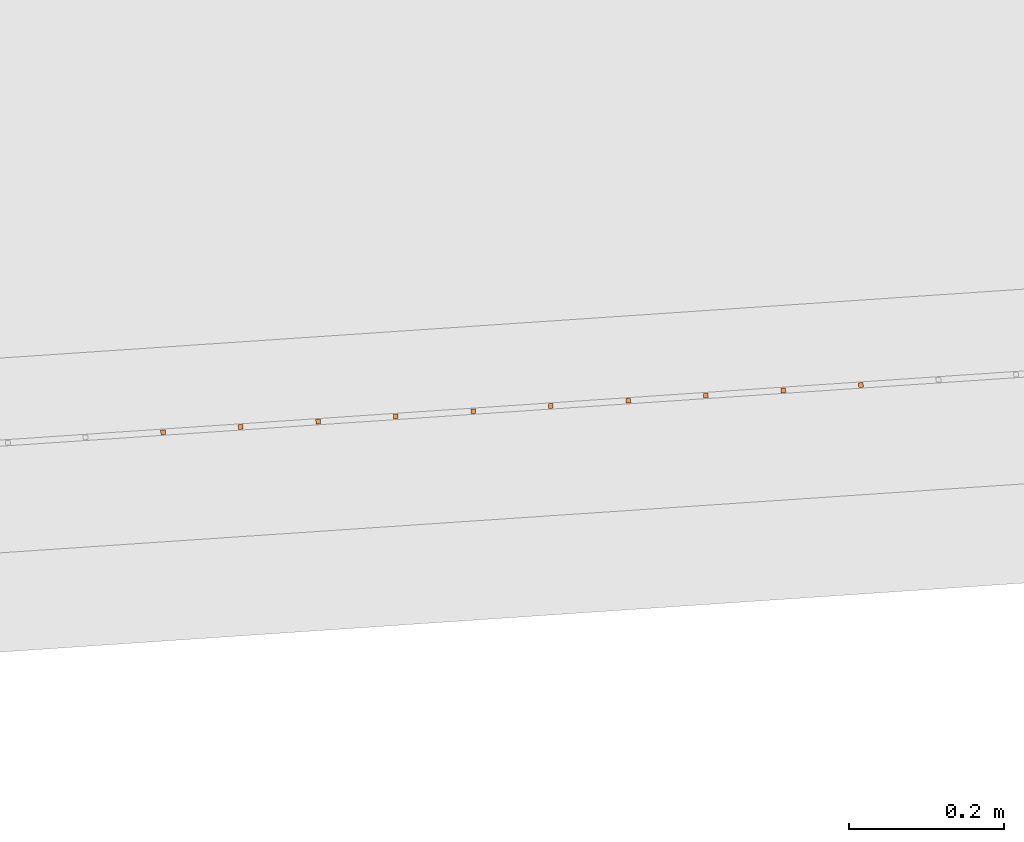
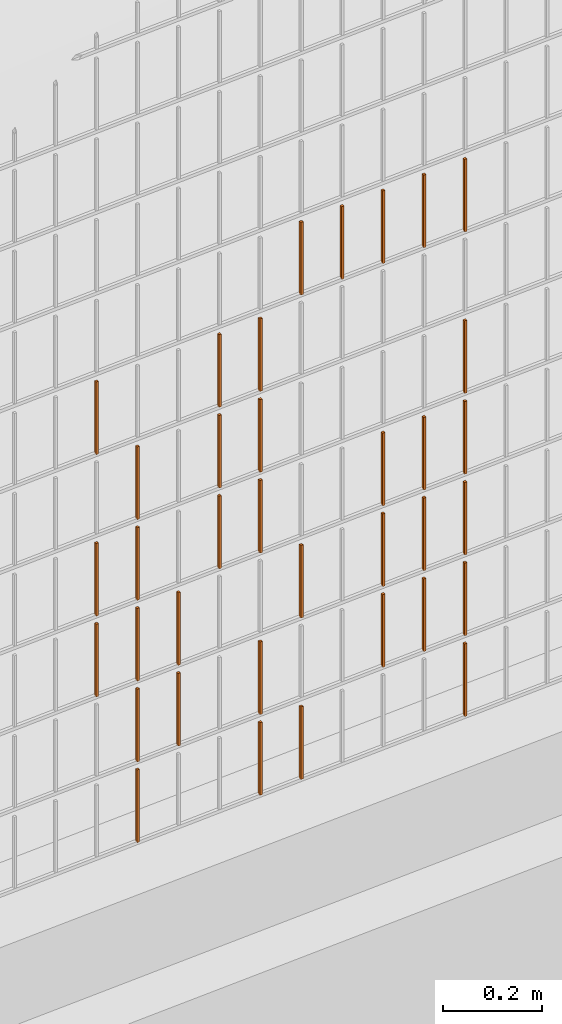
# One storey, part 267 of 1809: 36 proxies, 1 element without a shape of its own.
"""IFC2X3 building model written with IfcOpenShell, lengths in millimetres."""

import ifcopenshell
import ifcopenshell.guid

model = None  # the IFC model being written
_history = None  # IfcOwnerHistory: only IFC2X3 demands one
_inside = {}  # id of a spatial element -> (the spatial element, [elements in it])
_under = {}  # id of a project, library or spatial element -> (it, [spatial elements below it])
_declared = {}  # id of a project -> (the project, [libraries it declares])
_typed = {}  # id of a type object -> (the type object, [elements of that type])
_made_of = {}  # id of a material, layer set ... -> (it, [elements and type objects made of it])


def new_model(schema):
    """Start an empty IFC model of exactly this schema.

    Asked for "IFC4X3", IfcOpenShell would pick the latest addendum, in which some entities
    have other attributes; the version numbers below select the first issue.
    IFC2X3 requires an IfcOwnerHistory on every rooted entity: one is made here for all.
    """
    global model, _history
    if schema == "IFC4X3":
        model = ifcopenshell.file(schema_version=(4, 3, 0, 0))
    else:
        model = ifcopenshell.file(schema=schema)
    _inside.clear()
    _under.clear()
    _declared.clear()
    _typed.clear()
    _made_of.clear()
    _history = None
    if model.schema == "IFC2X3":
        org = make("IfcOrganization", Name="unknown")
        user = make(
            "IfcPersonAndOrganization",
            ThePerson=make("IfcPerson", FamilyName="unknown"),
            TheOrganization=org,
        )
        app = make(
            "IfcApplication",
            ApplicationDeveloper=org,
            Version="unknown",
            ApplicationFullName="unknown",
            ApplicationIdentifier="unknown",
        )
        _history = make(
            "IfcOwnerHistory",
            OwningUser=user,
            OwningApplication=app,
            ChangeAction="ADDED",
            CreationDate=0,
        )
    return model


def make(cls, **values):
    """One entity of the class cls with the attributes given. An attribute that is None is left unset."""
    return model.create_entity(
        cls, **{name: value for name, value in values.items() if value is not None}
    )


def entity(cls, *values):
    """Any entity or typed value of the class cls, its attributes in the order of the schema. None: left unset."""
    e = model.create_entity(cls)
    for i, value in enumerate(values):
        if value is not None:
            e[i] = value
    return e


def rooted(cls, **values):
    """An entity with a GlobalId (a new one), such as an element, a storey or a relation."""
    return make(cls, GlobalId=ifcopenshell.guid.new(), OwnerHistory=_history, **values)


def si_unit(unit_type, name, prefix=None):
    """IfcSIUnit, for example si_unit("LENGTHUNIT", "METRE", prefix="MILLI")."""
    return make("IfcSIUnit", UnitType=unit_type, Prefix=prefix, Name=name)


def converted_unit(unit_type, name, factor, base, dimensions=None, offset=None):
    """IfcConversionBasedUnit, such as the inch: factor (a typed value) times the base unit."""
    return make(
        "IfcConversionBasedUnit"
        if offset is None
        else "IfcConversionBasedUnitWithOffset",
        ConversionOffset=offset,
        Dimensions=None
        if dimensions is None
        else entity("IfcDimensionalExponents", *dimensions),
        UnitType=unit_type,
        Name=name,
        ConversionFactor=make(
            "IfcMeasureWithUnit", ValueComponent=factor, UnitComponent=base
        ),
    )


def derived_unit(unit_type, elements):
    """IfcDerivedUnit: a product of units, each with its exponent."""
    return make(
        "IfcDerivedUnit",
        Elements=[
            make("IfcDerivedUnitElement", Unit=unit, Exponent=power)
            for unit, power in elements
        ],
        UnitType=unit_type,
    )


def money_unit(currency):
    """IfcMonetaryUnit."""
    return make("IfcMonetaryUnit", Currency=currency)


def assignment(units):
    """IfcUnitAssignment: the units of a project."""
    return None if units is None else make("IfcUnitAssignment", Units=units)


def point(xyz):
    """IfcCartesianPoint."""
    return None if xyz is None else make("IfcCartesianPoint", Coordinates=xyz)


def direction(xyz):
    """IfcDirection."""
    return None if xyz is None else make("IfcDirection", DirectionRatios=xyz)


def frame(location, z_axis=None, x_axis=None):
    """IfcAxis2Placement3D, a coordinate frame: its origin and axes. An axis left out is left unset."""
    return make(
        "IfcAxis2Placement3D",
        Location=point(location),
        Axis=direction(z_axis),
        RefDirection=direction(x_axis),
    )


def origin_with_axes():
    """The frame at (0, 0, 0) with the z axis (0, 0, 1) and the x axis (1, 0, 0) written out."""
    return frame((0.0, 0.0, 0.0), z_axis=(0.0, 0.0, 1.0), x_axis=(1.0, 0.0, 0.0))


def place(relative_to, where):
    """IfcLocalPlacement: puts the frame where relative to a parent placement (None: the world)."""
    return make(
        "IfcLocalPlacement", PlacementRelTo=relative_to, RelativePlacement=where
    )


def context(
    kind, dimensions, precision=None, world=None, true_north=None, identifier=None
):
    """IfcGeometricRepresentationContext, for example the 3D "Model" context."""
    return make(
        "IfcGeometricRepresentationContext",
        ContextIdentifier=identifier,
        ContextType=kind,
        CoordinateSpaceDimension=dimensions,
        Precision=precision,
        WorldCoordinateSystem=world,
        TrueNorth=true_north,
    )


def subcontext(parent, identifier, kind, view, scale=None):
    """IfcGeometricRepresentationSubContext, for example "Body" below "Model"."""
    return make(
        "IfcGeometricRepresentationSubContext",
        ContextIdentifier=identifier,
        ContextType=kind,
        ParentContext=parent,
        TargetScale=scale,
        TargetView=view,
    )


def project(units=None, contexts=None):
    """IfcProject with its units and contexts."""
    return rooted(
        "IfcProject",
        Name="project",
        RepresentationContexts=contexts,
        UnitsInContext=assignment(units),
    )


def spatial(cls, under=None, at=None, **own):
    """A site, building, storey or space (cls), placed at a placement, below another one or the project."""
    s = rooted(cls, ObjectPlacement=at, **own)
    if under is not None:
        _under.setdefault(under.id(), (under, []))[1].append(s)
    return s


def faces_of(points, faces, orient=None, outer=None):
    """IfcFace entities. A face is a list of loops; a loop is a list of indices into points, from 0.

    orient and outer hold one flag for each loop. By default every Orientation is true, the
    first loop of a face is its IfcFaceOuterBound and the others are IfcFaceBound.
    """
    made = []
    for i, loops in enumerate(faces):
        bounds = []
        for j, loop in enumerate(loops):
            is_outer = j == 0 if outer is None else outer[i][j]
            bounds.append(
                make(
                    "IfcFaceOuterBound" if is_outer else "IfcFaceBound",
                    Bound=make("IfcPolyLoop", Polygon=[points[k] for k in loop]),
                    Orientation=True if orient is None else orient[i][j],
                )
            )
        made.append(make("IfcFace", Bounds=bounds))
    return made


def faceted_brep(points, faces, orient=None, outer=None, voids=None):
    """IfcFacetedBrep: a solid bounded by flat faces; with voids (closed shells), ...WithVoids."""
    shared = [point(p) for p in points]
    hull = make("IfcClosedShell", CfsFaces=faces_of(shared, faces, orient, outer))
    if voids is None:
        return make("IfcFacetedBrep", Outer=hull)
    return make(
        "IfcFacetedBrepWithVoids",
        Outer=hull,
        Voids=[
            make(cls, CfsFaces=faces_of(shared, fs, o, b)) for cls, fs, o, b in voids
        ],
    )


def shape(context_of_items, identifier, shape_type, items):
    """IfcShapeRepresentation: the items that make up one representation, for example the "Body"."""
    return make(
        "IfcShapeRepresentation",
        ContextOfItems=context_of_items,
        RepresentationIdentifier=identifier,
        RepresentationType=shape_type,
        Items=items,
    )


def source(mapping_origin, context_of_items, identifier, shape_type, items):
    """IfcRepresentationMap: a shape defined once, which mapped items show again and again."""
    return make(
        "IfcRepresentationMap",
        MappingOrigin=mapping_origin,
        MappedRepresentation=shape(context_of_items, identifier, shape_type, items),
    )


def transform(
    local_origin,
    x_axis=None,
    y_axis=None,
    z_axis=None,
    scale=None,
    scale2=None,
    scale3=None,
    uniform=True,
):
    """IfcCartesianTransformationOperator3D, or its non-uniform kind. x_axis, y_axis, z_axis: its Axis1, 2, 3."""
    if uniform:
        return make(
            "IfcCartesianTransformationOperator3D",
            Axis1=direction(x_axis),
            Axis2=direction(y_axis),
            LocalOrigin=point(local_origin),
            Scale=scale,
            Axis3=direction(z_axis),
        )
    return make(
        "IfcCartesianTransformationOperator3DnonUniform",
        Axis1=direction(x_axis),
        Axis2=direction(y_axis),
        LocalOrigin=point(local_origin),
        Scale=scale,
        Axis3=direction(z_axis),
        Scale2=scale2,
        Scale3=scale3,
    )


def mapped(mapping_source, mapping_target):
    """IfcMappedItem: shows the shape of a source again, moved by a transform."""
    return make(
        "IfcMappedItem", MappingSource=mapping_source, MappingTarget=mapping_target
    )


def material(Name=None, Category=None):
    """IfcMaterial."""
    return make("IfcMaterial", Name=Name, Category=Category)


def made_of(thing, what):
    """Note that an element or type object is made of a material, layer set ...; save() writes the relation."""
    if what is not None:
        _made_of.setdefault(what.id(), (what, []))[1].append(thing)
    return thing


def type_object(cls, material=None, **own):
    """A type object (cls), such as IfcWallType, which elements share."""
    return made_of(rooted(cls, **own), material)


def element(
    cls,
    number,
    at=None,
    inside=None,
    cuts=None,
    type_object=None,
    material=None,
    context=None,
    identifier="Body",
    shape_type=None,
    held_by="IfcProductDefinitionShape",
    body=None,
    shapes=None,
    **own,
):
    """One element of the class cls, such as IfcWall. Its Tag is "e" and its number.

    at: its placement. inside: the storey or other place that contains it. cuts: it is an
    opening in that element (IfcRelVoidsElement). A single representation is given by context,
    identifier, shape_type and body (its items); several are given by shapes. held_by: the class
    of the entity that holds the representations. save() writes the other relations.
    """
    e = rooted(cls, Tag="e%d" % number, ObjectPlacement=at, **own)
    if body is not None:
        shapes = [shape(context, identifier, shape_type, body)]
    if shapes is not None:
        e.Representation = make(held_by, Representations=shapes)
    if inside is not None:
        _inside.setdefault(inside.id(), (inside, []))[1].append(e)
    if cuts is not None:
        rooted(
            "IfcRelVoidsElement", RelatingBuildingElement=cuts, RelatedOpeningElement=e
        )
    if type_object is not None:
        _typed.setdefault(type_object.id(), (type_object, []))[1].append(e)
    return made_of(e, material)


def aggregate(whole, parts):
    """IfcRelAggregates: a whole, such as a stair, and the parts it consists of."""
    return rooted("IfcRelAggregates", RelatingObject=whole, RelatedObjects=parts)


def save(model, path):
    """Write the relations noted so far, then the file.

    IfcRelAggregates (storeys below a building ...), IfcRelContainedInSpatialStructure (elements
    in a storey), IfcRelDefinesByType, IfcRelAssociatesMaterial and IfcRelDeclares: one each for
    every whole, place, type object, material and project.
    """
    for whole, parts in _under.values():
        aggregate(whole, parts)
    for where, things in _inside.values():
        rooted(
            "IfcRelContainedInSpatialStructure",
            RelatedElements=things,
            RelatingStructure=where,
        )
    for kind, things in _typed.values():
        rooted("IfcRelDefinesByType", RelatedObjects=things, RelatingType=kind)
    for what, things in _made_of.values():
        rooted("IfcRelAssociatesMaterial", RelatedObjects=things, RelatingMaterial=what)
    for by, libraries in _declared.values():
        rooted("IfcRelDeclares", RelatingContext=by, RelatedDefinitions=libraries)
    model.write(path)


model = new_model("IFC2X3")

# Units and contexts
model_context = context("Model", 3, precision=0.01, world=origin_with_axes(), true_north=direction((0.0, 1.0)))
body_context = subcontext(model_context, "Body", "Model", "MODEL_VIEW")
ifc_project = project(units=[si_unit("LENGTHUNIT", "METRE", prefix="MILLI"), si_unit("AREAUNIT", "SQUARE_METRE"), si_unit("VOLUMEUNIT", "CUBIC_METRE"), converted_unit("PLANEANGLEUNIT", "DEGREE", entity("IfcPlaneAngleMeasure", 0.0174532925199), si_unit("PLANEANGLEUNIT", "RADIAN"), dimensions=[0, 0, 0, 0, 0, 0, 0]), si_unit("SOLIDANGLEUNIT", "STERADIAN"), money_unit("EUR"), converted_unit("TIMEUNIT", "Year", entity("IfcTimeMeasure", 31556926.0), si_unit("TIMEUNIT", "SECOND"), dimensions=[0, 0, 1, 0, 0, 0, 0]), si_unit("MASSUNIT", "GRAM", prefix="KILO"), si_unit("THERMODYNAMICTEMPERATUREUNIT", "DEGREE_CELSIUS"), si_unit("LUMINOUSINTENSITYUNIT", "LUMEN"), si_unit("ENERGYUNIT", "JOULE", prefix="MEGA"), derived_unit("THERMALCONDUCTANCEUNIT", [(si_unit("POWERUNIT", "WATT"), 1), (si_unit("LENGTHUNIT", "METRE"), -1), (si_unit("THERMODYNAMICTEMPERATUREUNIT", "KELVIN"), -1)]), derived_unit("SPECIFICHEATCAPACITYUNIT", [(si_unit("ENERGYUNIT", "JOULE"), 1), (si_unit("MASSUNIT", "GRAM", prefix="KILO"), -1), (si_unit("THERMODYNAMICTEMPERATUREUNIT", "KELVIN"), -1)]), derived_unit("MASSDENSITYUNIT", [(si_unit("MASSUNIT", "GRAM", prefix="KILO"), 1), (si_unit("VOLUMEUNIT", "CUBIC_METRE"), -1)])], contexts=[model_context])

# Site, building, storey
site_placement = place(None, origin_with_axes())
site = spatial("IfcSite", under=ifc_project, at=site_placement, Name="Politse- ja Piirivalveameti ning Päästeameti ühishoone", CompositionType="ELEMENT")
building_placement = place(site_placement, origin_with_axes())
building = spatial("IfcBuilding", under=site, at=building_placement, Name="Politse- ja Piirivalveameti ning Päästeameti ühishoone", CompositionType="ELEMENT")
storey_placement = place(building_placement, origin_with_axes())
storey = spatial("IfcBuildingStorey", under=building, at=storey_placement, Name="Esimene korrus", CompositionType="ELEMENT", Elevation=0.0)

# Proxies
building_element_proxy_type_1 = type_object("IfcBuildingElementProxyType", Name="Railing Type", PredefinedType="NOTDEFINED")
proxy_1_placement = place(storey_placement, frame((89252.001212, -29183.4766571, 203.661247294), z_axis=(0.0, 0.0, 1.0), x_axis=(1.0, 0.0, 0.0)))
proxy_1 = element("IfcBuildingElementProxy", 1, at=proxy_1_placement, inside=storey, type_object=building_element_proxy_type_1, Name="PIIRDEAED")
ifc_material = material(Name="ET-03_Raud")
building_element_proxy_type_2 = type_object("IfcBuildingElementProxyType", Name="IfcBuildingElementProxy", PredefinedType="NOTDEFINED")
shared_shape_1 = source(origin_with_axes(), body_context, "Body", "Brep", [
    faceted_brep([(3.0, 3.0, -0.000752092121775), (-3.0, 3.0, -0.000752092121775), (-3.0, 3.0, 179.99926046), (3.0, 3.0, 179.99926046), (3.0, -3.0, 0.000752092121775), (-3.0, -3.0, 0.000752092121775), (-3.0, -3.0, 180.000764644), (3.0, -3.0, 180.000764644)], [[[0, 1, 2, 3]], [[0, 4, 5, 1]], [[1, 5, 6, 2]], [[3, 2, 6, 7]], [[4, 0, 3, 7]], [[5, 4, 7, 6]]]),
])
proxy_2_placement = place(proxy_1_placement, frame((-55999.0856413, -21080.3016637, 13.1635722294), z_axis=(0.0, 0.0, 1.0), x_axis=(1.0, 0.0, 0.0)))
proxy_2 = element("IfcBuildingElementProxy", 2, at=proxy_2_placement, type_object=building_element_proxy_type_2, material=ifc_material, Name="BALUSTER - 001", context=body_context, shape_type="MappedRepresentation", body=[
    mapped(shared_shape_1, transform((0.0, 0.0, 0.0), x_axis=(-0.0673926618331, 0.997726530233, 0.0), y_axis=(-0.997726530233, -0.0673926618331, 0.0), z_axis=(0.0, 0.0, 1.0))),
])
shared_shape_2 = source(origin_with_axes(), body_context, "Body", "Brep", [
    faceted_brep([(3.0, 3.0, -0.000752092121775), (-3.0, 3.0, -0.000752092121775), (-3.0, 3.0, 179.99926046), (3.0, 3.0, 179.99926046), (3.0, -3.0, 0.000752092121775), (-3.0, -3.0, 0.000752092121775), (-3.0, -3.0, 180.000764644), (3.0, -3.0, 180.000764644)], [[[0, 1, 2, 3]], [[0, 4, 5, 1]], [[1, 5, 6, 2]], [[3, 2, 6, 7]], [[4, 0, 3, 7]], [[5, 4, 7, 6]]]),
])
proxy_3_placement = place(proxy_1_placement, frame((-55999.0856413, -21080.3016637, 413.163572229), z_axis=(0.0, 0.0, 1.0), x_axis=(1.0, 0.0, 0.0)))
proxy_3 = element("IfcBuildingElementProxy", 3, at=proxy_3_placement, type_object=building_element_proxy_type_2, material=ifc_material, Name="BALUSTER - 001", context=body_context, shape_type="MappedRepresentation", body=[
    mapped(shared_shape_2, transform((0.0, 0.0, 0.0), x_axis=(-0.0673926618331, 0.997726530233, 0.0), y_axis=(-0.997726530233, -0.0673926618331, 0.0), z_axis=(0.0, 0.0, 1.0))),
])
proxy_4_placement = place(proxy_1_placement, frame((-55999.0856413, -21080.3016637, 613.163572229), z_axis=(0.0, 0.0, 1.0), x_axis=(1.0, 0.0, 0.0)))
proxy_4 = element("IfcBuildingElementProxy", 4, at=proxy_4_placement, type_object=building_element_proxy_type_2, material=ifc_material, Name="BALUSTER - 001", context=body_context, shape_type="MappedRepresentation", body=[
    mapped(shared_shape_2, transform((0.0, 0.0, 0.0), x_axis=(-0.0673926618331, 0.997726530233, 0.0), y_axis=(-0.997726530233, -0.0673926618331, 0.0), z_axis=(0.0, 0.0, 1.0))),
])
shared_shape_3 = source(origin_with_axes(), body_context, "Body", "Brep", [
    faceted_brep([(3.0, 3.0, -0.000752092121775), (-3.0, 3.0, -0.000752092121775), (-3.0, 3.0, 179.99926046), (3.0, 3.0, 179.99926046), (3.0, -3.0, 0.000752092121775), (-3.0, -3.0, 0.000752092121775), (-3.0, -3.0, 180.000764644), (3.0, -3.0, 180.000764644)], [[[0, 1, 2, 3]], [[0, 4, 5, 1]], [[1, 5, 6, 2]], [[3, 2, 6, 7]], [[4, 0, 3, 7]], [[5, 4, 7, 6]]]),
])
proxy_5_placement = place(proxy_1_placement, frame((-55999.0856413, -21080.3016637, 813.163572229), z_axis=(0.0, 0.0, 1.0), x_axis=(1.0, 0.0, 0.0)))
proxy_5 = element("IfcBuildingElementProxy", 5, at=proxy_5_placement, type_object=building_element_proxy_type_2, material=ifc_material, Name="BALUSTER - 001", context=body_context, shape_type="MappedRepresentation", body=[
    mapped(shared_shape_3, transform((0.0, 0.0, 0.0), x_axis=(-0.0673926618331, 0.997726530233, 0.0), y_axis=(-0.997726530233, -0.0673926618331, 0.0), z_axis=(0.0, 0.0, 1.0))),
])
shared_shape_4 = source(origin_with_axes(), body_context, "Body", "Brep", [
    faceted_brep([(3.0, 3.0, -0.000752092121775), (-3.0, 3.0, -0.000752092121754), (-3.0, 3.0, 179.99926046), (3.0, 3.0, 179.99926046), (3.0, -3.0, 0.000752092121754), (-3.0, -3.0, 0.000752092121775), (-3.0, -3.0, 180.000764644), (3.0, -3.0, 180.000764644)], [[[0, 1, 2, 3]], [[0, 4, 5, 1]], [[1, 5, 6, 2]], [[3, 2, 6, 7]], [[4, 0, 3, 7]], [[5, 4, 7, 6]]]),
])
proxy_6_placement = place(proxy_1_placement, frame((-55200.9044171, -21026.3875343, 1213.36413013), z_axis=(0.0, 0.0, 1.0), x_axis=(1.0, 0.0, 0.0)))
proxy_6 = element("IfcBuildingElementProxy", 6, at=proxy_6_placement, type_object=building_element_proxy_type_2, material=ifc_material, Name="BALUSTER - 001", context=body_context, shape_type="MappedRepresentation", body=[
    mapped(shared_shape_4, transform((0.0, 0.0, 0.0), x_axis=(-0.0673926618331, 0.997726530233, 0.0), y_axis=(-0.997726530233, -0.0673926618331, 0.0), z_axis=(0.0, 0.0, 1.0))),
])
shared_shape_5 = source(origin_with_axes(), body_context, "Body", "Brep", [
    faceted_brep([(3.0, 3.0, -0.000752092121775), (-3.0, 3.0, -0.000752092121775), (-3.0, 3.0, 179.99926046), (3.0, 3.0, 179.99926046), (3.0, -3.0, 0.000752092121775), (-3.0, -3.0, 0.000752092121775), (-3.0, -3.0, 180.000764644), (3.0, -3.0, 180.000764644)], [[[0, 1, 2, 3]], [[0, 4, 5, 1]], [[1, 5, 6, 2]], [[3, 2, 6, 7]], [[4, 0, 3, 7]], [[5, 4, 7, 6]]]),
])
proxy_7_placement = place(proxy_1_placement, frame((-55999.0856413, -21080.3016637, 213.163572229), z_axis=(0.0, 0.0, 1.0), x_axis=(1.0, 0.0, 0.0)))
proxy_7 = element("IfcBuildingElementProxy", 7, at=proxy_7_placement, type_object=building_element_proxy_type_2, material=ifc_material, Name="BALUSTER - 001", context=body_context, shape_type="MappedRepresentation", body=[
    mapped(shared_shape_5, transform((0.0, 0.0, 0.0), x_axis=(-0.0673926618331, 0.997726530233, 0.0), y_axis=(-0.997726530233, -0.0673926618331, 0.0), z_axis=(0.0, 0.0, 1.0))),
])
shared_shape_6 = source(origin_with_axes(), body_context, "Body", "Brep", [
    faceted_brep([(3.0, 3.0, -0.000752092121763), (-3.0, 3.0, -0.000752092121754), (-3.00000000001, 2.99999999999, 179.99926046), (2.99999999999, 2.99999999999, 179.99926046), (3.0, -3.0, 0.000752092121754), (-3.0, -3.0, 0.000752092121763), (-3.00000000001, -3.00000000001, 180.000764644), (2.99999999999, -3.00000000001, 180.000764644)], [[[0, 1, 2, 3]], [[0, 4, 5, 1]], [[1, 5, 6, 2]], [[3, 2, 6, 7]], [[4, 0, 3, 7]], [[5, 4, 7, 6]]]),
])
proxy_8_placement = place(proxy_1_placement, frame((-55699.7676822, -21060.0838652, 1013.23878144), z_axis=(0.0, 0.0, 1.0), x_axis=(1.0, 0.0, 0.0)))
proxy_8 = element("IfcBuildingElementProxy", 8, at=proxy_8_placement, type_object=building_element_proxy_type_2, material=ifc_material, Name="BALUSTER - 001", context=body_context, shape_type="MappedRepresentation", body=[
    mapped(shared_shape_6, transform((0.0, 0.0, 0.0), x_axis=(-0.0673926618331, 0.997726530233, 0.0), y_axis=(-0.997726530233, -0.0673926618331, 0.0), z_axis=(0.0, 0.0, 1.0))),
])
proxy_9_placement = place(proxy_1_placement, frame((-56098.8582943, -21087.0409299, 1013.13850249), z_axis=(0.0, 0.0, 1.0), x_axis=(1.0, 0.0, 0.0)))
proxy_9 = element("IfcBuildingElementProxy", 9, at=proxy_9_placement, type_object=building_element_proxy_type_2, material=ifc_material, Name="BALUSTER - 001", context=body_context, shape_type="MappedRepresentation", body=[
    mapped(shared_shape_6, transform((0.0, 0.0, 0.0), x_axis=(-0.0673926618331, 0.997726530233, 0.0), y_axis=(-0.997726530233, -0.0673926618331, 0.0), z_axis=(0.0, 0.0, 1.0))),
])
shared_shape_7 = source(origin_with_axes(), body_context, "Body", "Brep", [
    faceted_brep([(3.0, 3.0, -0.000752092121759), (-3.0, 3.0, -0.00075209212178), (-3.0, 3.0, 179.99926046), (3.0, 3.0, 179.99926046), (3.0, -3.0, 0.00075209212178), (-3.0, -3.0, 0.000752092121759), (-3.0, -3.0, 180.000764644), (3.0, -3.0, 180.000764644)], [[[0, 1, 2, 3]], [[0, 4, 5, 1]], [[1, 5, 6, 2]], [[3, 2, 6, 7]], [[4, 0, 3, 7]], [[5, 4, 7, 6]]]),
])
proxy_10_placement = place(proxy_1_placement, frame((-55200.9044171, -21026.3875343, 13.3641301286), z_axis=(0.0, 0.0, 1.0), x_axis=(1.0, 0.0, 0.0)))
proxy_10 = element("IfcBuildingElementProxy", 10, at=proxy_10_placement, type_object=building_element_proxy_type_2, material=ifc_material, Name="BALUSTER - 001", context=body_context, shape_type="MappedRepresentation", body=[
    mapped(shared_shape_7, transform((0.0, 0.0, 0.0), x_axis=(-0.0673926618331, 0.997726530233, 0.0), y_axis=(-0.997726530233, -0.0673926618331, 0.0), z_axis=(0.0, 0.0, 1.0))),
])
shared_shape_8 = source(origin_with_axes(), body_context, "Body", "Brep", [
    faceted_brep([(3.0, 3.0, -0.000752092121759), (-3.0, 3.0, -0.00075209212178), (-3.0, 3.0, 179.99926046), (3.0, 3.0, 179.99926046), (3.0, -3.0, 0.00075209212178), (-3.0, -3.0, 0.000752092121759), (-3.0, -3.0, 180.000764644), (3.0, -3.0, 180.000764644)], [[[0, 1, 2, 3]], [[0, 4, 5, 1]], [[1, 5, 6, 2]], [[3, 2, 6, 7]], [[4, 0, 3, 7]], [[5, 4, 7, 6]]]),
])
proxy_11_placement = place(proxy_1_placement, frame((-55200.9044171, -21026.3875343, 213.364130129), z_axis=(0.0, 0.0, 1.0), x_axis=(1.0, 0.0, 0.0)))
proxy_11 = element("IfcBuildingElementProxy", 11, at=proxy_11_placement, type_object=building_element_proxy_type_2, material=ifc_material, Name="BALUSTER - 001", context=body_context, shape_type="MappedRepresentation", body=[
    mapped(shared_shape_8, transform((0.0, 0.0, 0.0), x_axis=(-0.0673926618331, 0.997726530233, 0.0), y_axis=(-0.997726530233, -0.0673926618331, 0.0), z_axis=(0.0, 0.0, 1.0))),
])
proxy_12_placement = place(proxy_1_placement, frame((-55200.9044171, -21026.3875343, 413.364130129), z_axis=(0.0, 0.0, 1.0), x_axis=(1.0, 0.0, 0.0)))
proxy_12 = element("IfcBuildingElementProxy", 12, at=proxy_12_placement, type_object=building_element_proxy_type_2, material=ifc_material, Name="BALUSTER - 001", context=body_context, shape_type="MappedRepresentation", body=[
    mapped(shared_shape_8, transform((0.0, 0.0, 0.0), x_axis=(-0.0673926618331, 0.997726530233, 0.0), y_axis=(-0.997726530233, -0.0673926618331, 0.0), z_axis=(0.0, 0.0, 1.0))),
])
shared_shape_9 = source(origin_with_axes(), body_context, "Body", "Brep", [
    faceted_brep([(3.0, 3.0, -0.000752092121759), (-3.0, 3.0, -0.00075209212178), (-3.0, 3.0, 179.99926046), (3.0, 3.0, 179.99926046), (3.0, -3.0, 0.00075209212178), (-3.0, -3.0, 0.000752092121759), (-3.0, -3.0, 180.000764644), (3.0, -3.0, 180.000764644)], [[[0, 1, 2, 3]], [[0, 4, 5, 1]], [[1, 5, 6, 2]], [[3, 2, 6, 7]], [[4, 0, 3, 7]], [[5, 4, 7, 6]]]),
])
proxy_13_placement = place(proxy_1_placement, frame((-55200.9044171, -21026.3875343, 613.364130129), z_axis=(0.0, 0.0, 1.0), x_axis=(1.0, 0.0, 0.0)))
proxy_13 = element("IfcBuildingElementProxy", 13, at=proxy_13_placement, type_object=building_element_proxy_type_2, material=ifc_material, Name="BALUSTER - 001", context=body_context, shape_type="MappedRepresentation", body=[
    mapped(shared_shape_9, transform((0.0, 0.0, 0.0), x_axis=(-0.0673926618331, 0.997726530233, 0.0), y_axis=(-0.997726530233, -0.0673926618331, 0.0), z_axis=(0.0, 0.0, 1.0))),
])
shared_shape_10 = source(origin_with_axes(), body_context, "Body", "Brep", [
    faceted_brep([(3.0, 3.0, -0.000752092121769), (-3.0, 3.0, -0.00075209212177), (-3.0, 3.0, 179.99926046), (3.0, 3.0, 179.99926046), (3.0, -3.0, 0.00075209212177), (-3.0, -3.0, 0.000752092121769), (-3.0, -3.0, 180.000764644), (3.0, -3.0, 180.000764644)], [[[0, 1, 2, 3]], [[0, 4, 5, 1]], [[1, 5, 6, 2]], [[3, 2, 6, 7]], [[4, 0, 3, 7]], [[5, 4, 7, 6]]]),
])
proxy_14_placement = place(proxy_1_placement, frame((-55400.4497231, -21039.8660666, 1213.31399065), z_axis=(0.0, 0.0, 1.0), x_axis=(1.0, 0.0, 0.0)))
proxy_14 = element("IfcBuildingElementProxy", 14, at=proxy_14_placement, type_object=building_element_proxy_type_2, material=ifc_material, Name="BALUSTER - 001", context=body_context, shape_type="MappedRepresentation", body=[
    mapped(shared_shape_10, transform((0.0, 0.0, 0.0), x_axis=(-0.0673926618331, 0.997726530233, 0.0), y_axis=(-0.997726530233, -0.0673926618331, 0.0), z_axis=(0.0, 0.0, 1.0))),
])
shared_shape_11 = source(origin_with_axes(), body_context, "Body", "Brep", [
    faceted_brep([(3.0, 3.0, -0.000752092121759), (-3.0, 3.0, -0.00075209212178), (-3.0, 3.0, 179.99926046), (3.0, 3.0, 179.99926046), (3.0, -3.0, 0.00075209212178), (-3.0, -3.0, 0.000752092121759), (-3.0, -3.0, 180.000764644), (3.0, -3.0, 180.000764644)], [[[0, 1, 2, 3]], [[0, 4, 5, 1]], [[1, 5, 6, 2]], [[3, 2, 6, 7]], [[4, 0, 3, 7]], [[5, 4, 7, 6]]]),
])
proxy_15_placement = place(proxy_1_placement, frame((-55200.9044171, -21026.3875343, 813.364130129), z_axis=(0.0, 0.0, 1.0), x_axis=(1.0, 0.0, 0.0)))
proxy_15 = element("IfcBuildingElementProxy", 15, at=proxy_15_placement, type_object=building_element_proxy_type_2, material=ifc_material, Name="BALUSTER - 001", context=body_context, shape_type="MappedRepresentation", body=[
    mapped(shared_shape_11, transform((0.0, 0.0, 0.0), x_axis=(-0.0673926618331, 0.997726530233, 0.0), y_axis=(-0.997726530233, -0.0673926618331, 0.0), z_axis=(0.0, 0.0, 1.0))),
])
shared_shape_12 = source(origin_with_axes(), body_context, "Body", "Brep", [
    faceted_brep([(3.0, 3.0, -0.000752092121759), (-3.0, 3.0, -0.00075209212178), (-3.0, 3.0, 179.99926046), (3.0, 3.0, 179.99926046), (3.0, -3.0, 0.00075209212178), (-3.0, -3.0, 0.000752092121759), (-3.0, -3.0, 180.000764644), (3.0, -3.0, 180.000764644)], [[[0, 1, 2, 3]], [[0, 4, 5, 1]], [[1, 5, 6, 2]], [[3, 2, 6, 7]], [[4, 0, 3, 7]], [[5, 4, 7, 6]]]),
])
proxy_16_placement = place(proxy_1_placement, frame((-55699.7676822, -21060.0838652, 613.238781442), z_axis=(0.0, 0.0, 1.0), x_axis=(1.0, 0.0, 0.0)))
proxy_16 = element("IfcBuildingElementProxy", 16, at=proxy_16_placement, type_object=building_element_proxy_type_2, material=ifc_material, Name="BALUSTER - 001", context=body_context, shape_type="MappedRepresentation", body=[
    mapped(shared_shape_12, transform((0.0, 0.0, 0.0), x_axis=(-0.0673926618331, 0.997726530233, 0.0), y_axis=(-0.997726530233, -0.0673926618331, 0.0), z_axis=(0.0, 0.0, 1.0))),
])
proxy_17_placement = place(proxy_1_placement, frame((-55699.7676822, -21060.0838652, 813.238781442), z_axis=(0.0, 0.0, 1.0), x_axis=(1.0, 0.0, 0.0)))
proxy_17 = element("IfcBuildingElementProxy", 17, at=proxy_17_placement, type_object=building_element_proxy_type_2, material=ifc_material, Name="BALUSTER - 001", context=body_context, shape_type="MappedRepresentation", body=[
    mapped(shared_shape_12, transform((0.0, 0.0, 0.0), x_axis=(-0.0673926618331, 0.997726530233, 0.0), y_axis=(-0.997726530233, -0.0673926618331, 0.0), z_axis=(0.0, 0.0, 1.0))),
])
shared_shape_13 = source(origin_with_axes(), body_context, "Body", "Brep", [
    faceted_brep([(3.0, 3.0, -0.000752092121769), (-3.0, 3.0, -0.00075209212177), (-3.0, 3.0, 179.99926046), (3.0, 3.0, 179.99926046), (3.0, -3.0, 0.00075209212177), (-3.0, -3.0, 0.000752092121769), (-3.0, -3.0, 180.000764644), (3.0, -3.0, 180.000764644)], [[[0, 1, 2, 3]], [[0, 4, 5, 1]], [[1, 5, 6, 2]], [[3, 2, 6, 7]], [[4, 0, 3, 7]], [[5, 4, 7, 6]]]),
])
proxy_18_placement = place(proxy_1_placement, frame((-55500.2223761, -21046.6053328, 1213.28892092), z_axis=(0.0, 0.0, 1.0), x_axis=(1.0, 0.0, 0.0)))
proxy_18 = element("IfcBuildingElementProxy", 18, at=proxy_18_placement, type_object=building_element_proxy_type_2, material=ifc_material, Name="BALUSTER - 001", context=body_context, shape_type="MappedRepresentation", body=[
    mapped(shared_shape_13, transform((0.0, 0.0, 0.0), x_axis=(-0.0673926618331, 0.997726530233, 0.0), y_axis=(-0.997726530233, -0.0673926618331, 0.0), z_axis=(0.0, 0.0, 1.0))),
])
shared_shape_14 = source(origin_with_axes(), body_context, "Body", "Brep", [
    faceted_brep([(3.0, 3.0, -0.000752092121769), (-3.0, 3.0, -0.00075209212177), (-3.0, 3.0, 179.99926046), (3.0, 3.0, 179.99926046), (3.0, -3.0, 0.00075209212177), (-3.0, -3.0, 0.000752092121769), (-3.0, -3.0, 180.000764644), (3.0, -3.0, 180.000764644)], [[[0, 1, 2, 3]], [[0, 4, 5, 1]], [[1, 5, 6, 2]], [[3, 2, 6, 7]], [[4, 0, 3, 7]], [[5, 4, 7, 6]]]),
])
proxy_19_placement = place(proxy_1_placement, frame((-55599.9950292, -21053.344599, 13.263851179), z_axis=(0.0, 0.0, 1.0), x_axis=(1.0, 0.0, 0.0)))
proxy_19 = element("IfcBuildingElementProxy", 19, at=proxy_19_placement, type_object=building_element_proxy_type_2, material=ifc_material, Name="BALUSTER - 001", context=body_context, shape_type="MappedRepresentation", body=[
    mapped(shared_shape_14, transform((0.0, 0.0, 0.0), x_axis=(-0.0673926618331, 0.997726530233, 0.0), y_axis=(-0.997726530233, -0.0673926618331, 0.0), z_axis=(0.0, 0.0, 1.0))),
])
shared_shape_15 = source(origin_with_axes(), body_context, "Body", "Brep", [
    faceted_brep([(3.0, 3.0, -0.000752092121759), (-3.0, 3.0, -0.00075209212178), (-3.0, 3.0, 179.99926046), (3.0, 3.0, 179.99926046), (3.0, -3.0, 0.00075209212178), (-3.0, -3.0, 0.000752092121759), (-3.0, -3.0, 180.000764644), (3.0, -3.0, 180.000764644)], [[[0, 1, 2, 3]], [[0, 4, 5, 1]], [[1, 5, 6, 2]], [[3, 2, 6, 7]], [[4, 0, 3, 7]], [[5, 4, 7, 6]]]),
])
proxy_20_placement = place(proxy_1_placement, frame((-55699.7676822, -21060.0838652, 13.2387814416), z_axis=(0.0, 0.0, 1.0), x_axis=(1.0, 0.0, 0.0)))
proxy_20 = element("IfcBuildingElementProxy", 20, at=proxy_20_placement, type_object=building_element_proxy_type_2, material=ifc_material, Name="BALUSTER - 001", context=body_context, shape_type="MappedRepresentation", body=[
    mapped(shared_shape_15, transform((0.0, 0.0, 0.0), x_axis=(-0.0673926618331, 0.997726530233, 0.0), y_axis=(-0.997726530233, -0.0673926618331, 0.0), z_axis=(0.0, 0.0, 1.0))),
])
proxy_21_placement = place(proxy_1_placement, frame((-55699.7676822, -21060.0838652, 213.238781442), z_axis=(0.0, 0.0, 1.0), x_axis=(1.0, 0.0, 0.0)))
proxy_21 = element("IfcBuildingElementProxy", 21, at=proxy_21_placement, type_object=building_element_proxy_type_2, material=ifc_material, Name="BALUSTER - 001", context=body_context, shape_type="MappedRepresentation", body=[
    mapped(shared_shape_15, transform((0.0, 0.0, 0.0), x_axis=(-0.0673926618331, 0.997726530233, 0.0), y_axis=(-0.997726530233, -0.0673926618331, 0.0), z_axis=(0.0, 0.0, 1.0))),
])
shared_shape_16 = source(origin_with_axes(), body_context, "Body", "Brep", [
    faceted_brep([(3.0, 3.0, -0.000752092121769), (-3.0, 3.0, -0.00075209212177), (-3.0, 3.0, 179.99926046), (3.0, 3.0, 179.99926046), (3.0, -3.0, 0.00075209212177), (-3.0, -3.0, 0.000752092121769), (-3.0, -3.0, 180.000764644), (3.0, -3.0, 180.000764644)], [[[0, 1, 2, 3]], [[0, 4, 5, 1]], [[1, 5, 6, 2]], [[3, 2, 6, 7]], [[4, 0, 3, 7]], [[5, 4, 7, 6]]]),
])
proxy_22_placement = place(proxy_1_placement, frame((-55300.6770701, -21033.1268005, 213.339060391), z_axis=(0.0, 0.0, 1.0), x_axis=(1.0, 0.0, 0.0)))
proxy_22 = element("IfcBuildingElementProxy", 22, at=proxy_22_placement, type_object=building_element_proxy_type_2, material=ifc_material, Name="BALUSTER - 001", context=body_context, shape_type="MappedRepresentation", body=[
    mapped(shared_shape_16, transform((0.0, 0.0, 0.0), x_axis=(-0.0673926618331, 0.997726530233, 0.0), y_axis=(-0.997726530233, -0.0673926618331, 0.0), z_axis=(0.0, 0.0, 1.0))),
])
shared_shape_17 = source(origin_with_axes(), body_context, "Body", "Brep", [
    faceted_brep([(3.0, 3.0, -0.000752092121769), (-3.0, 3.0, -0.00075209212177), (-3.0, 3.0, 179.99926046), (3.0, 3.0, 179.99926046), (3.0, -3.0, 0.00075209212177), (-3.0, -3.0, 0.000752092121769), (-3.0, -3.0, 180.000764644), (3.0, -3.0, 180.000764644)], [[[0, 1, 2, 3]], [[0, 4, 5, 1]], [[1, 5, 6, 2]], [[3, 2, 6, 7]], [[4, 0, 3, 7]], [[5, 4, 7, 6]]]),
])
proxy_23_placement = place(proxy_1_placement, frame((-55400.4497231, -21039.8660666, 213.313990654), z_axis=(0.0, 0.0, 1.0), x_axis=(1.0, 0.0, 0.0)))
proxy_23 = element("IfcBuildingElementProxy", 23, at=proxy_23_placement, type_object=building_element_proxy_type_2, material=ifc_material, Name="BALUSTER - 001", context=body_context, shape_type="MappedRepresentation", body=[
    mapped(shared_shape_17, transform((0.0, 0.0, 0.0), x_axis=(-0.0673926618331, 0.997726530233, 0.0), y_axis=(-0.997726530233, -0.0673926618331, 0.0), z_axis=(0.0, 0.0, 1.0))),
])
proxy_24_placement = place(proxy_1_placement, frame((-55400.4497231, -21039.8660666, 413.313990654), z_axis=(0.0, 0.0, 1.0), x_axis=(1.0, 0.0, 0.0)))
proxy_24 = element("IfcBuildingElementProxy", 24, at=proxy_24_placement, type_object=building_element_proxy_type_2, material=ifc_material, Name="BALUSTER - 001", context=body_context, shape_type="MappedRepresentation", body=[
    mapped(shared_shape_17, transform((0.0, 0.0, 0.0), x_axis=(-0.0673926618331, 0.997726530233, 0.0), y_axis=(-0.997726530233, -0.0673926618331, 0.0), z_axis=(0.0, 0.0, 1.0))),
])
proxy_25_placement = place(proxy_1_placement, frame((-55400.4497231, -21039.8660666, 613.313990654), z_axis=(0.0, 0.0, 1.0), x_axis=(1.0, 0.0, 0.0)))
proxy_25 = element("IfcBuildingElementProxy", 25, at=proxy_25_placement, type_object=building_element_proxy_type_2, material=ifc_material, Name="BALUSTER - 001", context=body_context, shape_type="MappedRepresentation", body=[
    mapped(shared_shape_17, transform((0.0, 0.0, 0.0), x_axis=(-0.0673926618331, 0.997726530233, 0.0), y_axis=(-0.997726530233, -0.0673926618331, 0.0), z_axis=(0.0, 0.0, 1.0))),
])
shared_shape_18 = source(origin_with_axes(), body_context, "Body", "Brep", [
    faceted_brep([(3.0, 3.0, -0.000752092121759), (-3.0, 3.0, -0.00075209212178), (-3.0, 3.0, 179.99926046), (3.0, 3.0, 179.99926046), (3.0, -3.0, 0.00075209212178), (-3.0, -3.0, 0.000752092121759), (-3.0, -3.0, 180.000764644), (3.0, -3.0, 180.000764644)], [[[0, 1, 2, 3]], [[0, 4, 5, 1]], [[1, 5, 6, 2]], [[3, 2, 6, 7]], [[4, 0, 3, 7]], [[5, 4, 7, 6]]]),
])
proxy_26_placement = place(proxy_1_placement, frame((-55899.3129882, -21073.5623976, 213.188641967), z_axis=(0.0, 0.0, 1.0), x_axis=(1.0, 0.0, 0.0)))
proxy_26 = element("IfcBuildingElementProxy", 26, at=proxy_26_placement, type_object=building_element_proxy_type_2, material=ifc_material, Name="BALUSTER - 001", context=body_context, shape_type="MappedRepresentation", body=[
    mapped(shared_shape_18, transform((0.0, 0.0, 0.0), x_axis=(-0.0673926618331, 0.997726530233, 0.0), y_axis=(-0.997726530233, -0.0673926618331, 0.0), z_axis=(0.0, 0.0, 1.0))),
])
proxy_27_placement = place(proxy_1_placement, frame((-55899.3129882, -21073.5623976, 413.188641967), z_axis=(0.0, 0.0, 1.0), x_axis=(1.0, 0.0, 0.0)))
proxy_27 = element("IfcBuildingElementProxy", 27, at=proxy_27_placement, type_object=building_element_proxy_type_2, material=ifc_material, Name="BALUSTER - 001", context=body_context, shape_type="MappedRepresentation", body=[
    mapped(shared_shape_18, transform((0.0, 0.0, 0.0), x_axis=(-0.0673926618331, 0.997726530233, 0.0), y_axis=(-0.997726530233, -0.0673926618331, 0.0), z_axis=(0.0, 0.0, 1.0))),
])
shared_shape_19 = source(origin_with_axes(), body_context, "Body", "Brep", [
    faceted_brep([(3.0, 3.0, -0.000752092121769), (-3.0, 3.0, -0.00075209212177), (-3.0, 3.0, 179.99926046), (3.0, 3.0, 179.99926046), (3.0, -3.0, 0.00075209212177), (-3.0, -3.0, 0.000752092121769), (-3.0, -3.0, 180.000764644), (3.0, -3.0, 180.000764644)], [[[0, 1, 2, 3]], [[0, 4, 5, 1]], [[1, 5, 6, 2]], [[3, 2, 6, 7]], [[4, 0, 3, 7]], [[5, 4, 7, 6]]]),
])
proxy_28_placement = place(proxy_1_placement, frame((-55599.9950292, -21053.344599, 413.263851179), z_axis=(0.0, 0.0, 1.0), x_axis=(1.0, 0.0, 0.0)))
proxy_28 = element("IfcBuildingElementProxy", 28, at=proxy_28_placement, type_object=building_element_proxy_type_2, material=ifc_material, Name="BALUSTER - 001", context=body_context, shape_type="MappedRepresentation", body=[
    mapped(shared_shape_19, transform((0.0, 0.0, 0.0), x_axis=(-0.0673926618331, 0.997726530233, 0.0), y_axis=(-0.997726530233, -0.0673926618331, 0.0), z_axis=(0.0, 0.0, 1.0))),
])
shared_shape_20 = source(origin_with_axes(), body_context, "Body", "Brep", [
    faceted_brep([(3.0, 3.0, -0.000752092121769), (-3.0, 3.0, -0.00075209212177), (-3.0, 3.0, 179.99926046), (3.0, 3.0, 179.99926046), (3.0, -3.0, 0.00075209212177), (-3.0, -3.0, 0.000752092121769), (-3.0, -3.0, 180.000764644), (3.0, -3.0, 180.000764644)], [[[0, 1, 2, 3]], [[0, 4, 5, 1]], [[1, 5, 6, 2]], [[3, 2, 6, 7]], [[4, 0, 3, 7]], [[5, 4, 7, 6]]]),
])
proxy_29_placement = place(proxy_1_placement, frame((-55300.6770701, -21033.1268005, 413.339060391), z_axis=(0.0, 0.0, 1.0), x_axis=(1.0, 0.0, 0.0)))
proxy_29 = element("IfcBuildingElementProxy", 29, at=proxy_29_placement, type_object=building_element_proxy_type_2, material=ifc_material, Name="BALUSTER - 001", context=body_context, shape_type="MappedRepresentation", body=[
    mapped(shared_shape_20, transform((0.0, 0.0, 0.0), x_axis=(-0.0673926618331, 0.997726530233, 0.0), y_axis=(-0.997726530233, -0.0673926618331, 0.0), z_axis=(0.0, 0.0, 1.0))),
])
proxy_30_placement = place(proxy_1_placement, frame((-55300.6770701, -21033.1268005, 613.339060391), z_axis=(0.0, 0.0, 1.0), x_axis=(1.0, 0.0, 0.0)))
proxy_30 = element("IfcBuildingElementProxy", 30, at=proxy_30_placement, type_object=building_element_proxy_type_2, material=ifc_material, Name="BALUSTER - 001", context=body_context, shape_type="MappedRepresentation", body=[
    mapped(shared_shape_20, transform((0.0, 0.0, 0.0), x_axis=(-0.0673926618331, 0.997726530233, 0.0), y_axis=(-0.997726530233, -0.0673926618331, 0.0), z_axis=(0.0, 0.0, 1.0))),
])
shared_shape_21 = source(origin_with_axes(), body_context, "Body", "Brep", [
    faceted_brep([(3.0, 3.0, -0.000752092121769), (-3.0, 3.0, -0.000752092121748), (-3.0, 3.0, 179.99926046), (3.0, 3.0, 179.99926046), (3.0, -3.0, 0.000752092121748), (-3.0, -3.0, 0.000752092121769), (-3.0, -3.0, 180.000764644), (3.0, -3.0, 180.000764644)], [[[0, 1, 2, 3]], [[0, 4, 5, 1]], [[1, 5, 6, 2]], [[3, 2, 6, 7]], [[4, 0, 3, 7]], [[5, 4, 7, 6]]]),
])
proxy_31_placement = place(proxy_1_placement, frame((-56098.8582943, -21087.0409299, 413.138502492), z_axis=(0.0, 0.0, 1.0), x_axis=(1.0, 0.0, 0.0)))
proxy_31 = element("IfcBuildingElementProxy", 31, at=proxy_31_placement, type_object=building_element_proxy_type_2, material=ifc_material, Name="BALUSTER - 001", context=body_context, shape_type="MappedRepresentation", body=[
    mapped(shared_shape_21, transform((0.0, 0.0, 0.0), x_axis=(-0.0673926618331, 0.997726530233, 0.0), y_axis=(-0.997726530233, -0.0673926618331, 0.0), z_axis=(0.0, 0.0, 1.0))),
])
proxy_32_placement = place(proxy_1_placement, frame((-56098.8582943, -21087.0409299, 613.138502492), z_axis=(0.0, 0.0, 1.0), x_axis=(1.0, 0.0, 0.0)))
proxy_32 = element("IfcBuildingElementProxy", 32, at=proxy_32_placement, type_object=building_element_proxy_type_2, material=ifc_material, Name="BALUSTER - 001", context=body_context, shape_type="MappedRepresentation", body=[
    mapped(shared_shape_21, transform((0.0, 0.0, 0.0), x_axis=(-0.0673926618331, 0.997726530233, 0.0), y_axis=(-0.997726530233, -0.0673926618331, 0.0), z_axis=(0.0, 0.0, 1.0))),
])
shared_shape_22 = source(origin_with_axes(), body_context, "Body", "Brep", [
    faceted_brep([(3.0, 3.0, -0.000752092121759), (-3.0, 3.0, -0.00075209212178), (-3.0, 3.0, 179.99926046), (3.0, 3.0, 179.99926046), (3.0, -3.0, 0.00075209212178), (-3.0, -3.0, 0.000752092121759), (-3.0, -3.0, 180.000764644), (3.0, -3.0, 180.000764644)], [[[0, 1, 2, 3]], [[0, 4, 5, 1]], [[1, 5, 6, 2]], [[3, 2, 6, 7]], [[4, 0, 3, 7]], [[5, 4, 7, 6]]]),
])
proxy_33_placement = place(proxy_1_placement, frame((-55799.5403352, -21066.8231314, 613.213711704), z_axis=(0.0, 0.0, 1.0), x_axis=(1.0, 0.0, 0.0)))
proxy_33 = element("IfcBuildingElementProxy", 33, at=proxy_33_placement, type_object=building_element_proxy_type_2, material=ifc_material, Name="BALUSTER - 001", context=body_context, shape_type="MappedRepresentation", body=[
    mapped(shared_shape_22, transform((0.0, 0.0, 0.0), x_axis=(-0.0673926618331, 0.997726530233, 0.0), y_axis=(-0.997726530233, -0.0673926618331, 0.0), z_axis=(0.0, 0.0, 1.0))),
])
proxy_34_placement = place(proxy_1_placement, frame((-55799.5403352, -21066.8231314, 813.213711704), z_axis=(0.0, 0.0, 1.0), x_axis=(1.0, 0.0, 0.0)))
proxy_34 = element("IfcBuildingElementProxy", 34, at=proxy_34_placement, type_object=building_element_proxy_type_2, material=ifc_material, Name="BALUSTER - 001", context=body_context, shape_type="MappedRepresentation", body=[
    mapped(shared_shape_22, transform((0.0, 0.0, 0.0), x_axis=(-0.0673926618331, 0.997726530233, 0.0), y_axis=(-0.997726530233, -0.0673926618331, 0.0), z_axis=(0.0, 0.0, 1.0))),
])
shared_shape_23 = source(origin_with_axes(), body_context, "Body", "Brep", [
    faceted_brep([(3.0, 3.0, -0.00075209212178), (-3.0, 3.0, -0.000752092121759), (-3.0, 3.0, 179.99926046), (3.0, 3.0, 179.99926046), (3.0, -3.0, 0.000752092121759), (-3.0, -3.0, 0.00075209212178), (-3.0, -3.0, 180.000764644), (3.0, -3.0, 180.000764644)], [[[0, 1, 2, 3]], [[0, 4, 5, 1]], [[1, 5, 6, 2]], [[3, 2, 6, 7]], [[4, 0, 3, 7]], [[5, 4, 7, 6]]]),
])
proxy_35_placement = place(proxy_1_placement, frame((-55300.6770701, -21033.1268005, 1213.33906039), z_axis=(0.0, 0.0, 1.0), x_axis=(1.0, 0.0, 0.0)))
proxy_35 = element("IfcBuildingElementProxy", 35, at=proxy_35_placement, type_object=building_element_proxy_type_2, material=ifc_material, Name="BALUSTER - 001", context=body_context, shape_type="MappedRepresentation", body=[
    mapped(shared_shape_23, transform((0.0, 0.0, 0.0), x_axis=(-0.0673926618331, 0.997726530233, 0.0), y_axis=(-0.997726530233, -0.0673926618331, 0.0), z_axis=(0.0, 0.0, 1.0))),
])
shared_shape_24 = source(origin_with_axes(), body_context, "Body", "Brep", [
    faceted_brep([(3.0, 3.0, -0.000752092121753), (-3.0, 3.0, -0.000752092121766), (-3.00000000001, 3.00000000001, 179.99926046), (2.99999999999, 3.00000000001, 179.99926046), (3.0, -3.0, 0.000752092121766), (-3.0, -3.0, 0.000752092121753), (-3.00000000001, -2.99999999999, 180.000764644), (2.99999999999, -2.99999999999, 180.000764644)], [[[0, 1, 2, 3]], [[0, 4, 5, 1]], [[1, 5, 6, 2]], [[3, 2, 6, 7]], [[4, 0, 3, 7]], [[5, 4, 7, 6]]]),
])
proxy_36_placement = place(proxy_1_placement, frame((-55799.5403352, -21066.8231314, 1013.2137117), z_axis=(0.0, 0.0, 1.0), x_axis=(1.0, 0.0, 0.0)))
proxy_36 = element("IfcBuildingElementProxy", 36, at=proxy_36_placement, type_object=building_element_proxy_type_2, material=ifc_material, Name="BALUSTER - 001", context=body_context, shape_type="MappedRepresentation", body=[
    mapped(shared_shape_24, transform((0.0, 0.0, 0.0), x_axis=(-0.0673926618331, 0.997726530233, 0.0), y_axis=(-0.997726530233, -0.0673926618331, 0.0), z_axis=(0.0, 0.0, 1.0))),
])
shared_shape_25 = source(origin_with_axes(), body_context, "Body", "Brep", [
    faceted_brep([(3.0, 3.0, -0.000752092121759), (-3.0, 3.0, -0.000752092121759), (-3.0, 3.0, 179.99926046), (3.0, 3.0, 179.99926046), (3.0, -3.0, 0.000752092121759), (-3.0, -3.0, 0.000752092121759), (-3.0, -3.0, 180.000764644), (3.0, -3.0, 180.000764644)], [[[0, 1, 2, 3]], [[0, 4, 5, 1]], [[1, 5, 6, 2]], [[3, 2, 6, 7]], [[4, 0, 3, 7]], [[5, 4, 7, 6]]]),
])
proxy_37_placement = place(proxy_1_placement, frame((-55599.9950292, -21053.344599, 1213.26385118), z_axis=(0.0, 0.0, 1.0), x_axis=(1.0, 0.0, 0.0)))
proxy_37 = element("IfcBuildingElementProxy", 37, at=proxy_37_placement, type_object=building_element_proxy_type_2, material=ifc_material, Name="BALUSTER - 001", context=body_context, shape_type="MappedRepresentation", body=[
    mapped(shared_shape_25, transform((0.0, 0.0, 0.0), x_axis=(-0.0673926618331, 0.997726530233, 0.0), y_axis=(-0.997726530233, -0.0673926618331, 0.0), z_axis=(0.0, 0.0, 1.0))),
])
aggregate(proxy_1, [proxy_10, proxy_19, proxy_20, proxy_2, proxy_11, proxy_22, proxy_23, proxy_21, proxy_26, proxy_7, proxy_12, proxy_29, proxy_24, proxy_28, proxy_27, proxy_3, proxy_31, proxy_13, proxy_30, proxy_25, proxy_16, proxy_33, proxy_4, proxy_32, proxy_15, proxy_17, proxy_34, proxy_5, proxy_8, proxy_36, proxy_9, proxy_6, proxy_35, proxy_14, proxy_18, proxy_37])

save(model, "model.ifc")
